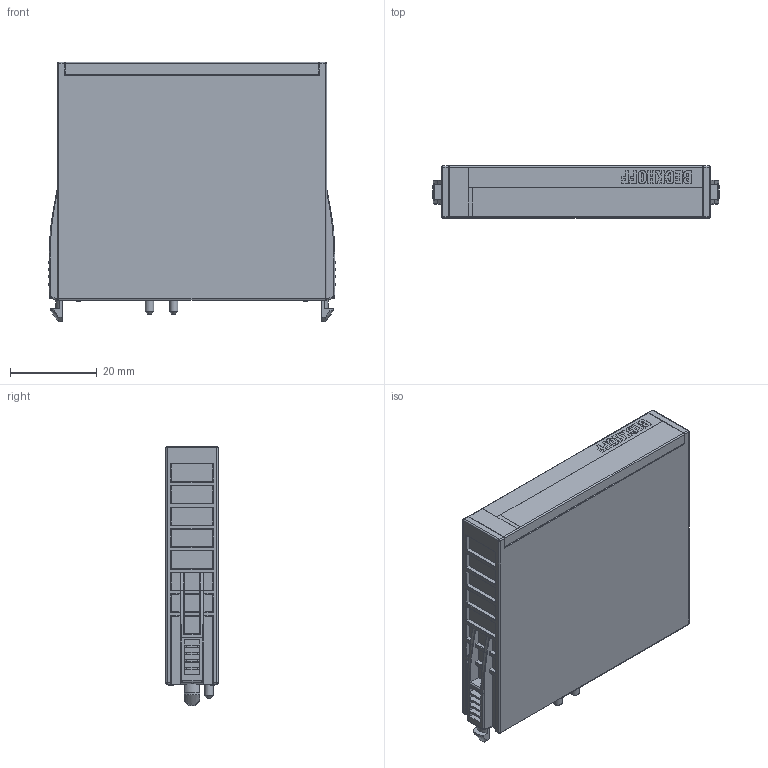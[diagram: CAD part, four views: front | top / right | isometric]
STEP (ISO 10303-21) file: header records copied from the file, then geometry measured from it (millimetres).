
FILE_DESCRIPTION(/* description */ ('EtherCAT-Steckmodul 12 mm 16 pin code 13'),/* implementation_level */ '2;1');
FILE_NAME(/* name */ 'E:\ej_12_16pin_code13.stp',/* time_stamp */ '2021-01-25T11:46:13+01:00',/* author */ ('LarsSo'),/* organization */ (''),/* preprocessor_version */ 'ST-DEVELOPER v18.1',/* originating_system */ 'Autodesk Inventor 2020',/* authorisation */ '');
FILE_SCHEMA (('AUTOMOTIVE_DESIGN { 1 0 10303 214 3 1 1 }'));
Length unit declared in the file: millimetre
Products named in the file (1): 0000000946_EJ_12_16pin_Code13_vereinfacht
Bounding box: 66 x 12 x 59.72 mm (x, y, z)
Volume: 39636.3 mm3; surface area: 11023.5 mm2
Topology: 1 solids, 1 shells, 569 faces, 1481 edges, 951 vertices
Faces by surface type: plane 339, cylinder 149, bspline 71, sphere 8, cone 2
Full cylindrical faces by diameter (mm): 1 x4, 1.904 x8
Entity records: 19589 total; most frequent: CARTESIAN_POINT 5871, ORIENTED_EDGE 2962, DIRECTION 2590, EDGE_CURVE 1481, LINE 1062, VECTOR 1062, VERTEX_POINT 951, AXIS2_PLACEMENT_3D 764
